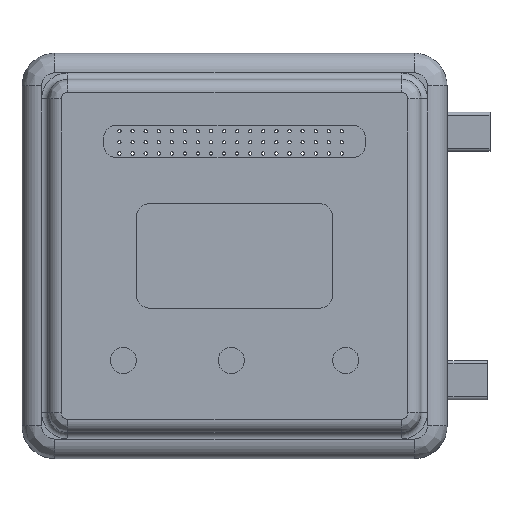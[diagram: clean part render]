
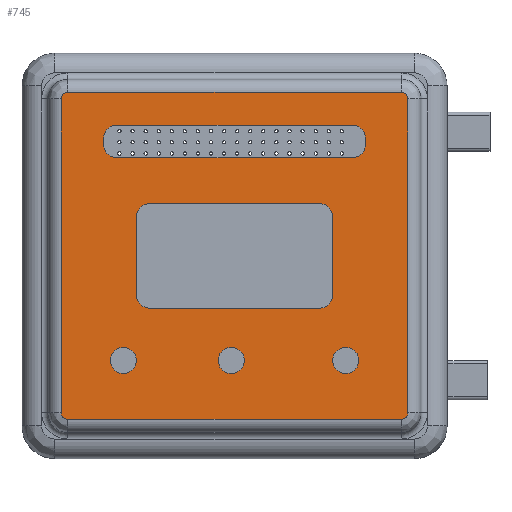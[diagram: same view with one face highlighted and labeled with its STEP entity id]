
A CAD part, top view. The second image highlights one B-rep face of the part: STEP entity #745.
In plain terms, the highlighted planar face has unit normal (0, 0, 1).
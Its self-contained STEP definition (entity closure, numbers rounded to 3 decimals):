
#745=ADVANCED_FACE('',(#1233,#1234,#1235,#1236,#1237,#1238),#1079,.T.);
#1079=PLANE('',#6580);
#1233=FACE_BOUND('',#1561,.T.);
#1234=FACE_BOUND('',#1562,.T.);
#1235=FACE_BOUND('',#1563,.T.);
#1236=FACE_BOUND('',#1564,.T.);
#1237=FACE_BOUND('',#1565,.T.);
#1238=FACE_BOUND('',#1566,.T.);
#1561=EDGE_LOOP('',(#2726));
#1562=EDGE_LOOP('',(#2727));
#1563=EDGE_LOOP('',(#2728));
#1564=EDGE_LOOP('',(#2729,#2730,#2731,#2732,#2733,#2734,#2735,#2736));
#1565=EDGE_LOOP('',(#2737,#2738,#2739,#2740,#2741,#2742,#2743,#2744));
#1566=EDGE_LOOP('',(#2745,#2746,#2747,#2748,#2749,#2750,#2751,#2752));
#2158=CIRCLE('',#6565,2.);
#2159=CIRCLE('',#6566,2.);
#2160=CIRCLE('',#6567,2.);
#2161=CIRCLE('',#6568,1.);
#2162=CIRCLE('',#6569,1.);
#2163=CIRCLE('',#6570,1.);
#2164=CIRCLE('',#6571,1.);
#2165=CIRCLE('',#6572,2.);
#2166=CIRCLE('',#6573,2.);
#2167=CIRCLE('',#6574,2.);
#2168=CIRCLE('',#6575,2.);
#2169=CIRCLE('',#6576,2.);
#2170=CIRCLE('',#6577,2.);
#2171=CIRCLE('',#6578,2.);
#2172=CIRCLE('',#6579,2.);
#2726=ORIENTED_EDGE('',*,*,#4962,.T.);
#2727=ORIENTED_EDGE('',*,*,#4963,.T.);
#2728=ORIENTED_EDGE('',*,*,#4964,.T.);
#2729=ORIENTED_EDGE('',*,*,#4965,.T.);
#2730=ORIENTED_EDGE('',*,*,#4966,.T.);
#2731=ORIENTED_EDGE('',*,*,#4967,.T.);
#2732=ORIENTED_EDGE('',*,*,#4968,.T.);
#2733=ORIENTED_EDGE('',*,*,#4969,.T.);
#2734=ORIENTED_EDGE('',*,*,#4970,.T.);
#2735=ORIENTED_EDGE('',*,*,#4971,.T.);
#2736=ORIENTED_EDGE('',*,*,#4972,.T.);
#2737=ORIENTED_EDGE('',*,*,#4973,.T.);
#2738=ORIENTED_EDGE('',*,*,#4974,.T.);
#2739=ORIENTED_EDGE('',*,*,#4975,.T.);
#2740=ORIENTED_EDGE('',*,*,#4976,.T.);
#2741=ORIENTED_EDGE('',*,*,#4977,.T.);
#2742=ORIENTED_EDGE('',*,*,#4978,.T.);
#2743=ORIENTED_EDGE('',*,*,#4979,.T.);
#2744=ORIENTED_EDGE('',*,*,#4980,.T.);
#2745=ORIENTED_EDGE('',*,*,#4981,.T.);
#2746=ORIENTED_EDGE('',*,*,#4982,.T.);
#2747=ORIENTED_EDGE('',*,*,#4983,.T.);
#2748=ORIENTED_EDGE('',*,*,#4984,.T.);
#2749=ORIENTED_EDGE('',*,*,#4985,.T.);
#2750=ORIENTED_EDGE('',*,*,#4986,.T.);
#2751=ORIENTED_EDGE('',*,*,#4987,.T.);
#2752=ORIENTED_EDGE('',*,*,#4988,.T.);
#4334=VERTEX_POINT('',#9860);
#4335=VERTEX_POINT('',#9862);
#4336=VERTEX_POINT('',#9864);
#4337=VERTEX_POINT('',#9866);
#4338=VERTEX_POINT('',#9867);
#4339=VERTEX_POINT('',#9869);
#4340=VERTEX_POINT('',#9871);
#4341=VERTEX_POINT('',#9873);
#4342=VERTEX_POINT('',#9875);
#4343=VERTEX_POINT('',#9877);
#4344=VERTEX_POINT('',#9879);
#4345=VERTEX_POINT('',#9882);
#4346=VERTEX_POINT('',#9883);
#4347=VERTEX_POINT('',#9885);
#4348=VERTEX_POINT('',#9887);
#4349=VERTEX_POINT('',#9889);
#4350=VERTEX_POINT('',#9891);
#4351=VERTEX_POINT('',#9893);
#4352=VERTEX_POINT('',#9895);
#4353=VERTEX_POINT('',#9898);
#4354=VERTEX_POINT('',#9899);
#4355=VERTEX_POINT('',#9901);
#4356=VERTEX_POINT('',#9903);
#4357=VERTEX_POINT('',#9905);
#4358=VERTEX_POINT('',#9907);
#4359=VERTEX_POINT('',#9909);
#4360=VERTEX_POINT('',#9911);
#4962=EDGE_CURVE('',#4334,#4334,#2158,.T.);
#4963=EDGE_CURVE('',#4335,#4335,#2159,.T.);
#4964=EDGE_CURVE('',#4336,#4336,#2160,.T.);
#4965=EDGE_CURVE('',#4337,#4338,#5697,.T.);
#4966=EDGE_CURVE('',#4338,#4339,#2161,.T.);
#4967=EDGE_CURVE('',#4339,#4340,#5698,.T.);
#4968=EDGE_CURVE('',#4340,#4341,#2162,.T.);
#4969=EDGE_CURVE('',#4341,#4342,#5699,.T.);
#4970=EDGE_CURVE('',#4342,#4343,#2163,.T.);
#4971=EDGE_CURVE('',#4343,#4344,#5700,.T.);
#4972=EDGE_CURVE('',#4344,#4337,#2164,.T.);
#4973=EDGE_CURVE('',#4345,#4346,#5701,.T.);
#4974=EDGE_CURVE('',#4346,#4347,#2165,.T.);
#4975=EDGE_CURVE('',#4347,#4348,#5702,.T.);
#4976=EDGE_CURVE('',#4348,#4349,#2166,.T.);
#4977=EDGE_CURVE('',#4349,#4350,#5703,.T.);
#4978=EDGE_CURVE('',#4350,#4351,#2167,.T.);
#4979=EDGE_CURVE('',#4351,#4352,#5704,.T.);
#4980=EDGE_CURVE('',#4352,#4345,#2168,.T.);
#4981=EDGE_CURVE('',#4353,#4354,#5705,.T.);
#4982=EDGE_CURVE('',#4354,#4355,#2169,.T.);
#4983=EDGE_CURVE('',#4355,#4356,#5706,.T.);
#4984=EDGE_CURVE('',#4356,#4357,#2170,.T.);
#4985=EDGE_CURVE('',#4357,#4358,#5707,.T.);
#4986=EDGE_CURVE('',#4358,#4359,#2171,.T.);
#4987=EDGE_CURVE('',#4359,#4360,#5708,.T.);
#4988=EDGE_CURVE('',#4360,#4353,#2172,.T.);
#5697=LINE('',#9865,#6134);
#5698=LINE('',#9870,#6135);
#5699=LINE('',#9874,#6136);
#5700=LINE('',#9878,#6137);
#5701=LINE('',#9881,#6138);
#5702=LINE('',#9886,#6139);
#5703=LINE('',#9890,#6140);
#5704=LINE('',#9894,#6141);
#5705=LINE('',#9897,#6142);
#5706=LINE('',#9902,#6143);
#5707=LINE('',#9906,#6144);
#5708=LINE('',#9910,#6145);
#6134=VECTOR('',#7555,1.);
#6135=VECTOR('',#7558,1.);
#6136=VECTOR('',#7561,1.);
#6137=VECTOR('',#7564,1.);
#6138=VECTOR('',#7567,1.);
#6139=VECTOR('',#7570,1.);
#6140=VECTOR('',#7573,1.);
#6141=VECTOR('',#7576,1.);
#6142=VECTOR('',#7579,1.);
#6143=VECTOR('',#7582,1.);
#6144=VECTOR('',#7585,1.);
#6145=VECTOR('',#7588,1.);
#6565=AXIS2_PLACEMENT_3D('',#9859,#7549,#7550);
#6566=AXIS2_PLACEMENT_3D('',#9861,#7551,#7552);
#6567=AXIS2_PLACEMENT_3D('',#9863,#7553,#7554);
#6568=AXIS2_PLACEMENT_3D('',#9868,#7556,#7557);
#6569=AXIS2_PLACEMENT_3D('',#9872,#7559,#7560);
#6570=AXIS2_PLACEMENT_3D('',#9876,#7562,#7563);
#6571=AXIS2_PLACEMENT_3D('',#9880,#7565,#7566);
#6572=AXIS2_PLACEMENT_3D('',#9884,#7568,#7569);
#6573=AXIS2_PLACEMENT_3D('',#9888,#7571,#7572);
#6574=AXIS2_PLACEMENT_3D('',#9892,#7574,#7575);
#6575=AXIS2_PLACEMENT_3D('',#9896,#7577,#7578);
#6576=AXIS2_PLACEMENT_3D('',#9900,#7580,#7581);
#6577=AXIS2_PLACEMENT_3D('',#9904,#7583,#7584);
#6578=AXIS2_PLACEMENT_3D('',#9908,#7586,#7587);
#6579=AXIS2_PLACEMENT_3D('',#9912,#7589,#7590);
#6580=AXIS2_PLACEMENT_3D('',#9913,#7591,#7592);
#7549=DIRECTION('',(0.,0.,-1.));
#7550=DIRECTION('',(1.,0.,0.));
#7551=DIRECTION('',(0.,0.,-1.));
#7552=DIRECTION('',(1.,0.,0.));
#7553=DIRECTION('',(0.,0.,-1.));
#7554=DIRECTION('',(1.,0.,0.));
#7555=DIRECTION('',(1.,0.,0.));
#7556=DIRECTION('',(0.,0.,1.));
#7557=DIRECTION('',(1.,0.,0.));
#7558=DIRECTION('',(0.,1.,0.));
#7559=DIRECTION('',(0.,0.,1.));
#7560=DIRECTION('',(1.,0.,0.));
#7561=DIRECTION('',(-1.,0.,0.));
#7562=DIRECTION('',(0.,0.,1.));
#7563=DIRECTION('',(1.,0.,0.));
#7564=DIRECTION('',(0.,-1.,0.));
#7565=DIRECTION('',(0.,0.,1.));
#7566=DIRECTION('',(1.,0.,0.));
#7567=DIRECTION('',(0.,-1.,0.));
#7568=DIRECTION('',(0.,0.,-1.));
#7569=DIRECTION('',(1.,0.,0.));
#7570=DIRECTION('',(-1.,0.,0.));
#7571=DIRECTION('',(0.,0.,-1.));
#7572=DIRECTION('',(1.,0.,0.));
#7573=DIRECTION('',(0.,1.,0.));
#7574=DIRECTION('',(0.,0.,-1.));
#7575=DIRECTION('',(1.,0.,0.));
#7576=DIRECTION('',(1.,0.,0.));
#7577=DIRECTION('',(0.,0.,-1.));
#7578=DIRECTION('',(1.,0.,0.));
#7579=DIRECTION('',(0.,-1.,0.));
#7580=DIRECTION('',(0.,0.,-1.));
#7581=DIRECTION('',(1.,0.,0.));
#7582=DIRECTION('',(-1.,0.,0.));
#7583=DIRECTION('',(0.,0.,-1.));
#7584=DIRECTION('',(1.,0.,0.));
#7585=DIRECTION('',(0.,1.,0.));
#7586=DIRECTION('',(0.,0.,-1.));
#7587=DIRECTION('',(1.,0.,0.));
#7588=DIRECTION('',(1.,0.,0.));
#7589=DIRECTION('',(0.,0.,-1.));
#7590=DIRECTION('',(1.,0.,0.));
#7591=DIRECTION('',(0.,0.,1.));
#7592=DIRECTION('',(1.,0.,0.));
#9859=CARTESIAN_POINT('',(-17.,-16.,18.));
#9860=CARTESIAN_POINT('',(-15.,-16.,18.));
#9861=CARTESIAN_POINT('',(-0.492,-16.,18.));
#9862=CARTESIAN_POINT('',(1.508,-16.,18.));
#9863=CARTESIAN_POINT('',(17.,-16.,18.));
#9864=CARTESIAN_POINT('',(19.,-16.,18.));
#9865=CARTESIAN_POINT('',(25.5,-25.,18.));
#9866=CARTESIAN_POINT('',(-25.5,-25.,18.));
#9867=CARTESIAN_POINT('',(25.5,-25.,18.));
#9868=CARTESIAN_POINT('',(25.5,-24.,18.));
#9869=CARTESIAN_POINT('',(26.5,-24.,18.));
#9870=CARTESIAN_POINT('',(26.5,24.,18.));
#9871=CARTESIAN_POINT('',(26.5,24.,18.));
#9872=CARTESIAN_POINT('',(25.5,24.,18.));
#9873=CARTESIAN_POINT('',(25.5,25.,18.));
#9874=CARTESIAN_POINT('',(-25.5,25.,18.));
#9875=CARTESIAN_POINT('',(-25.5,25.,18.));
#9876=CARTESIAN_POINT('',(-25.5,24.,18.));
#9877=CARTESIAN_POINT('',(-26.5,24.,18.));
#9878=CARTESIAN_POINT('',(-26.5,-24.,18.));
#9879=CARTESIAN_POINT('',(-26.5,-24.,18.));
#9880=CARTESIAN_POINT('',(-25.5,-24.,18.));
#9881=CARTESIAN_POINT('',(15.,0.,18.));
#9882=CARTESIAN_POINT('',(15.,6.,18.));
#9883=CARTESIAN_POINT('',(15.,-6.,18.));
#9884=CARTESIAN_POINT('',(13.,-6.,18.));
#9885=CARTESIAN_POINT('',(13.,-8.,18.));
#9886=CARTESIAN_POINT('',(0.,-8.,18.));
#9887=CARTESIAN_POINT('',(-13.,-8.,18.));
#9888=CARTESIAN_POINT('',(-13.,-6.,18.));
#9889=CARTESIAN_POINT('',(-15.,-6.,18.));
#9890=CARTESIAN_POINT('',(-15.,0.,18.));
#9891=CARTESIAN_POINT('',(-15.,6.,18.));
#9892=CARTESIAN_POINT('',(-13.,6.,18.));
#9893=CARTESIAN_POINT('',(-13.,8.,18.));
#9894=CARTESIAN_POINT('',(0.,8.,18.));
#9895=CARTESIAN_POINT('',(13.,8.,18.));
#9896=CARTESIAN_POINT('',(13.,6.,18.));
#9897=CARTESIAN_POINT('',(20.,0.,18.));
#9898=CARTESIAN_POINT('',(20.,18.,18.));
#9899=CARTESIAN_POINT('',(20.,17.,18.));
#9900=CARTESIAN_POINT('',(18.,17.,18.));
#9901=CARTESIAN_POINT('',(18.,15.,18.));
#9902=CARTESIAN_POINT('',(0.,15.,18.));
#9903=CARTESIAN_POINT('',(-18.,15.,18.));
#9904=CARTESIAN_POINT('',(-18.,17.,18.));
#9905=CARTESIAN_POINT('',(-20.,17.,18.));
#9906=CARTESIAN_POINT('',(-20.,0.,18.));
#9907=CARTESIAN_POINT('',(-20.,18.,18.));
#9908=CARTESIAN_POINT('',(-18.,18.,18.));
#9909=CARTESIAN_POINT('',(-18.,20.,18.));
#9910=CARTESIAN_POINT('',(0.,20.,18.));
#9911=CARTESIAN_POINT('',(18.,20.,18.));
#9912=CARTESIAN_POINT('',(18.,18.,18.));
#9913=CARTESIAN_POINT('',(0.,0.,18.));
